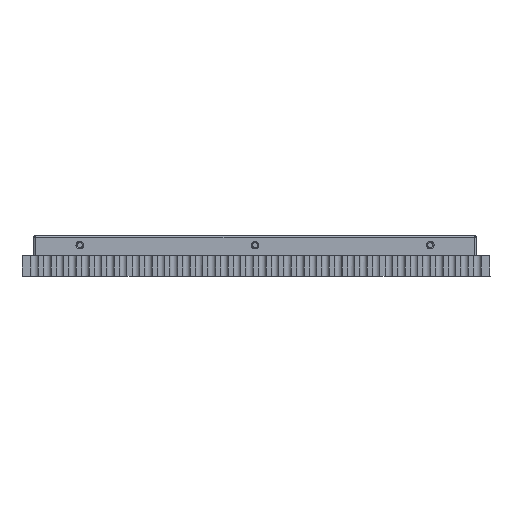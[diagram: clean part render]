
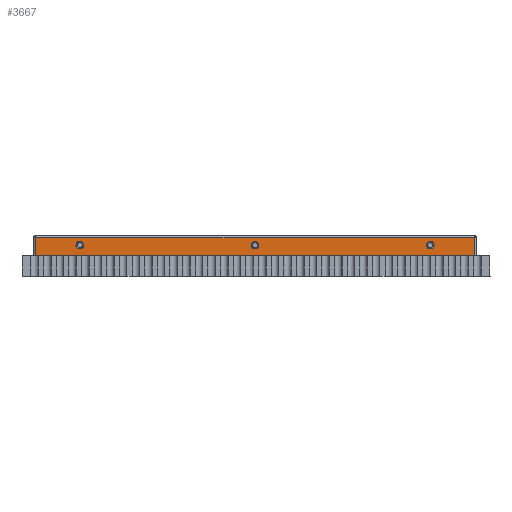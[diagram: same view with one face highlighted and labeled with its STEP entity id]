
A CAD part, front view. The second image highlights one B-rep face of the part: STEP entity #3667.
In plain terms, the highlighted planar face has unit normal (0, -1, 0).
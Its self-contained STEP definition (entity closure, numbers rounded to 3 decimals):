
#1227 = LINE ( 'NONE', #45082, #16446 ) ;
#2055 = VERTEX_POINT ( 'NONE', #75486 ) ;
#2433 = CARTESIAN_POINT ( 'NONE',  ( 144.375, 201.063, 0.15 ) ) ;
#3183 = CARTESIAN_POINT ( 'NONE',  ( 113.165, 201.063, 0.75 ) ) ;
#3667 = ADVANCED_FACE ( 'NONE', ( #7336, #52900, #36382, #87132 ), #8479, .T. ) ;
#5102 = EDGE_CURVE ( 'NONE', #68871, #25129, #1227, .T. ) ;
#5330 = DIRECTION ( 'NONE',  ( 0., 0., -1. ) ) ;
#6169 = AXIS2_PLACEMENT_3D ( 'NONE', #19290, #43262, #35281 ) ;
#6949 = EDGE_LOOP ( 'NONE', ( #103926, #82985 ) ) ;
#7336 = FACE_BOUND ( 'NONE', #67914, .T. ) ;
#8479 = PLANE ( 'NONE',  #8688 ) ;
#8688 = AXIS2_PLACEMENT_3D ( 'NONE', #53453, #10742, #78037 ) ;
#10676 = ORIENTED_EDGE ( 'NONE', *, *, #111480, .F. ) ;
#10742 = DIRECTION ( 'NONE',  ( 0., -1., 0. ) ) ;
#12306 = CARTESIAN_POINT ( 'NONE',  ( 144.375, 201.063, 1.6 ) ) ;
#13066 = EDGE_CURVE ( 'NONE', #76871, #71912, #44921, .T. ) ;
#14346 = LINE ( 'NONE', #101538, #44722 ) ;
#16446 = VECTOR ( 'NONE', #79878, 1000. ) ;
#16841 = DIRECTION ( 'NONE',  ( 0., 1., 0. ) ) ;
#17232 = DIRECTION ( 'NONE',  ( 0., 1., 0. ) ) ;
#17356 = DIRECTION ( 'NONE',  ( -1., 0., 0. ) ) ;
#17632 = VECTOR ( 'NONE', #5330, 1000. ) ;
#19290 = CARTESIAN_POINT ( 'NONE',  ( 127.025, 201.063, 0.75 ) ) ;
#25129 = VERTEX_POINT ( 'NONE', #2433 ) ;
#26975 = VERTEX_POINT ( 'NONE', #64268 ) ;
#27714 = ORIENTED_EDGE ( 'NONE', *, *, #5102, .F. ) ;
#29387 = DIRECTION ( 'NONE',  ( 0., 1., 0. ) ) ;
#35281 = DIRECTION ( 'NONE',  ( 1., 0., 0. ) ) ;
#35816 = DIRECTION ( 'NONE',  ( 0., 1., 0. ) ) ;
#36382 = FACE_BOUND ( 'NONE', #6949, .T. ) ;
#38615 = EDGE_CURVE ( 'NONE', #2055, #97424, #49754, .T. ) ;
#39426 = ORIENTED_EDGE ( 'NONE', *, *, #56226, .T. ) ;
#40931 = CIRCLE ( 'NONE', #75559, 0.3 ) ;
#43262 = DIRECTION ( 'NONE',  ( 0., 1., 0. ) ) ;
#44329 = VERTEX_POINT ( 'NONE', #72905 ) ;
#44722 = VECTOR ( 'NONE', #67341, 1000. ) ;
#44921 = CIRCLE ( 'NONE', #108611, 0.3 ) ;
#45082 = CARTESIAN_POINT ( 'NONE',  ( 144.375, 201.063, 1.6 ) ) ;
#49754 = LINE ( 'NONE', #67446, #17632 ) ;
#52569 = CARTESIAN_POINT ( 'NONE',  ( 127.025, 201.063, 0.75 ) ) ;
#52744 = AXIS2_PLACEMENT_3D ( 'NONE', #61992, #35816, #52867 ) ;
#52867 = DIRECTION ( 'NONE',  ( -1., 0., 0. ) ) ;
#52900 = FACE_BOUND ( 'NONE', #76045, .T. ) ;
#53007 = CARTESIAN_POINT ( 'NONE',  ( 126.725, 201.063, 0.75 ) ) ;
#53453 = CARTESIAN_POINT ( 'NONE',  ( 109.525, 201.063, 0. ) ) ;
#54145 = DIRECTION ( 'NONE',  ( 1., 0., 0. ) ) ;
#56226 = EDGE_CURVE ( 'NONE', #71912, #76871, #98006, .T. ) ;
#57071 = CIRCLE ( 'NONE', #6169, 0.3 ) ;
#57992 = ORIENTED_EDGE ( 'NONE', *, *, #93275, .T. ) ;
#58448 = EDGE_CURVE ( 'NONE', #26975, #44329, #101884, .T. ) ;
#61873 = CARTESIAN_POINT ( 'NONE',  ( 113.165, 201.063, 0.75 ) ) ;
#61992 = CARTESIAN_POINT ( 'NONE',  ( 140.885, 201.063, 0.75 ) ) ;
#62700 = DIRECTION ( 'NONE',  ( 0., 1., 0. ) ) ;
#62751 = AXIS2_PLACEMENT_3D ( 'NONE', #52569, #17232, #69135 ) ;
#64268 = CARTESIAN_POINT ( 'NONE',  ( 140.585, 201.063, 0.75 ) ) ;
#64895 = EDGE_CURVE ( 'NONE', #44329, #26975, #40931, .T. ) ;
#67341 = DIRECTION ( 'NONE',  ( 1., 0., 0. ) ) ;
#67446 = CARTESIAN_POINT ( 'NONE',  ( 109.675, 201.063, 1.6 ) ) ;
#67914 = EDGE_LOOP ( 'NONE', ( #39426, #93898 ) ) ;
#68110 = CARTESIAN_POINT ( 'NONE',  ( 144.375, 201.063, 0.15 ) ) ;
#68871 = VERTEX_POINT ( 'NONE', #12306 ) ;
#69135 = DIRECTION ( 'NONE',  ( -1., 0., 0. ) ) ;
#70571 = VERTEX_POINT ( 'NONE', #53007 ) ;
#71912 = VERTEX_POINT ( 'NONE', #92175 ) ;
#72905 = CARTESIAN_POINT ( 'NONE',  ( 141.185, 201.063, 0.75 ) ) ;
#74324 = AXIS2_PLACEMENT_3D ( 'NONE', #3183, #29387, #81282 ) ;
#75486 = CARTESIAN_POINT ( 'NONE',  ( 109.675, 201.063, 1.6 ) ) ;
#75559 = AXIS2_PLACEMENT_3D ( 'NONE', #104311, #62700, #54145 ) ;
#76045 = EDGE_LOOP ( 'NONE', ( #108758, #57992 ) ) ;
#76871 = VERTEX_POINT ( 'NONE', #106672 ) ;
#78037 = DIRECTION ( 'NONE',  ( 0., 0., -1. ) ) ;
#78441 = ORIENTED_EDGE ( 'NONE', *, *, #103912, .F. ) ;
#79878 = DIRECTION ( 'NONE',  ( 0., 0., -1. ) ) ;
#81282 = DIRECTION ( 'NONE',  ( 1., 0., 0. ) ) ;
#82985 = ORIENTED_EDGE ( 'NONE', *, *, #58448, .T. ) ;
#84568 = CIRCLE ( 'NONE', #62751, 0.3 ) ;
#87132 = FACE_OUTER_BOUND ( 'NONE', #90270, .T. ) ;
#87997 = ORIENTED_EDGE ( 'NONE', *, *, #38615, .T. ) ;
#90270 = EDGE_LOOP ( 'NONE', ( #10676, #27714, #78441, #87997 ) ) ;
#92175 = CARTESIAN_POINT ( 'NONE',  ( 113.465, 201.063, 0.75 ) ) ;
#92956 = CARTESIAN_POINT ( 'NONE',  ( 109.675, 201.063, 0.15 ) ) ;
#93275 = EDGE_CURVE ( 'NONE', #70571, #101039, #84568, .T. ) ;
#93898 = ORIENTED_EDGE ( 'NONE', *, *, #13066, .T. ) ;
#94046 = CARTESIAN_POINT ( 'NONE',  ( 127.325, 201.063, 0.75 ) ) ;
#94340 = LINE ( 'NONE', #68110, #110742 ) ;
#95565 = DIRECTION ( 'NONE',  ( -1., 0., 0. ) ) ;
#97424 = VERTEX_POINT ( 'NONE', #92956 ) ;
#98006 = CIRCLE ( 'NONE', #74324, 0.3 ) ;
#99502 = EDGE_CURVE ( 'NONE', #101039, #70571, #57071, .T. ) ;
#101039 = VERTEX_POINT ( 'NONE', #94046 ) ;
#101538 = CARTESIAN_POINT ( 'NONE',  ( 109.675, 201.063, 1.6 ) ) ;
#101884 = CIRCLE ( 'NONE', #52744, 0.3 ) ;
#103912 = EDGE_CURVE ( 'NONE', #2055, #68871, #14346, .T. ) ;
#103926 = ORIENTED_EDGE ( 'NONE', *, *, #64895, .T. ) ;
#104311 = CARTESIAN_POINT ( 'NONE',  ( 140.885, 201.063, 0.75 ) ) ;
#106672 = CARTESIAN_POINT ( 'NONE',  ( 112.865, 201.063, 0.75 ) ) ;
#108611 = AXIS2_PLACEMENT_3D ( 'NONE', #61873, #16841, #95565 ) ;
#108758 = ORIENTED_EDGE ( 'NONE', *, *, #99502, .T. ) ;
#110742 = VECTOR ( 'NONE', #17356, 1000. ) ;
#111480 = EDGE_CURVE ( 'NONE', #25129, #97424, #94340, .T. ) ;
